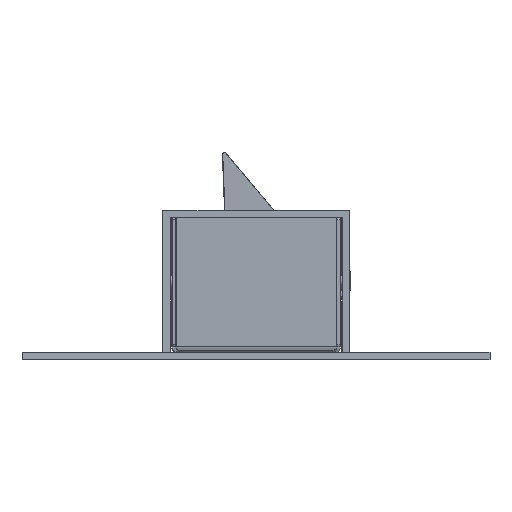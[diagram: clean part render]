
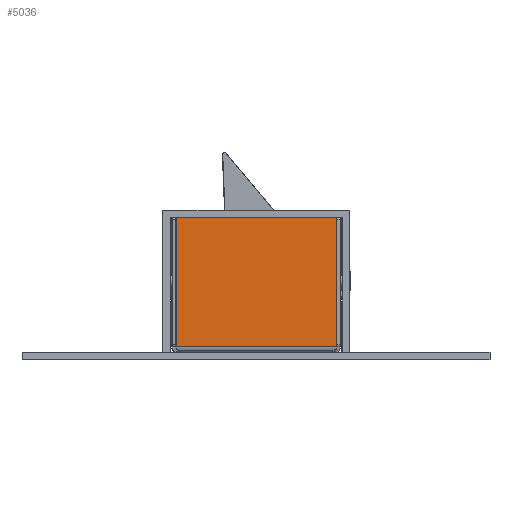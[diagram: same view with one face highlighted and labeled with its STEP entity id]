
A CAD part, left-side view. The second image highlights one B-rep face of the part: STEP entity #5036.
In plain terms, the highlighted planar face has unit normal (-1, 0, 0).
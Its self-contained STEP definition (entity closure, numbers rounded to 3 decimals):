
#263=LINE('',#7916,#696);
#267=LINE('',#7925,#700);
#268=LINE('',#7931,#701);
#269=LINE('',#7933,#702);
#696=VECTOR('',#6372,1000.);
#700=VECTOR('',#6378,1000.);
#701=VECTOR('',#6383,1000.);
#702=VECTOR('',#6384,1000.);
#1123=PLANE('',#5785);
#1305=ORIENTED_EDGE('',*,*,#2747,.F.);
#1306=ORIENTED_EDGE('',*,*,#2748,.T.);
#1307=ORIENTED_EDGE('',*,*,#2743,.F.);
#1308=ORIENTED_EDGE('',*,*,#2749,.T.);
#1309=ORIENTED_EDGE('',*,*,#2750,.T.);
#1310=ORIENTED_EDGE('',*,*,#2751,.T.);
#2743=EDGE_CURVE('',#3464,#3465,#263,.T.);
#2747=EDGE_CURVE('',#3468,#3469,#267,.T.);
#2748=EDGE_CURVE('',#3468,#3465,#3940,.T.);
#2749=EDGE_CURVE('',#3464,#3470,#3941,.T.);
#2750=EDGE_CURVE('',#3470,#3471,#268,.T.);
#2751=EDGE_CURVE('',#3471,#3469,#269,.T.);
#3464=VERTEX_POINT('',#7917);
#3465=VERTEX_POINT('',#7918);
#3468=VERTEX_POINT('',#7926);
#3469=VERTEX_POINT('',#7927);
#3470=VERTEX_POINT('',#7930);
#3471=VERTEX_POINT('',#7932);
#3940=CIRCLE('',#5786,0.5);
#3941=CIRCLE('',#5787,0.5);
#4151=EDGE_LOOP('',(#1305,#1306,#1307,#1308,#1309,#1310));
#4544=FACE_BOUND('',#4151,.T.);
#5036=ADVANCED_FACE('',(#4544),#1123,.F.);
#5785=AXIS2_PLACEMENT_3D('',#7924,#6376,#6377);
#5786=AXIS2_PLACEMENT_3D('',#7928,#6379,#6380);
#5787=AXIS2_PLACEMENT_3D('',#7929,#6381,#6382);
#6372=DIRECTION('',(0.,-1.,0.));
#6376=DIRECTION('',(1.,0.,0.));
#6377=DIRECTION('',(0.,1.,0.));
#6378=DIRECTION('',(0.,0.,-1.));
#6379=DIRECTION('',(-1.,0.,0.));
#6380=DIRECTION('',(0.,0.,-1.));
#6381=DIRECTION('',(-1.,0.,0.));
#6382=DIRECTION('',(0.,0.,-1.));
#6383=DIRECTION('',(0.,0.,-1.));
#6384=DIRECTION('',(0.,-1.,0.));
#7916=CARTESIAN_POINT('',(-15.,-22.5,36.5));
#7917=CARTESIAN_POINT('',(-15.,20.9,36.5));
#7918=CARTESIAN_POINT('',(-15.,-20.9,36.5));
#7924=CARTESIAN_POINT('',(-15.,-22.5,36.5));
#7925=CARTESIAN_POINT('',(-15.,-21.4,36.5));
#7926=CARTESIAN_POINT('',(-15.,-21.4,36.));
#7927=CARTESIAN_POINT('',(-15.,-21.4,2.));
#7928=CARTESIAN_POINT('',(-15.,-20.9,36.));
#7929=CARTESIAN_POINT('',(-15.,20.9,36.));
#7930=CARTESIAN_POINT('',(-15.,21.4,36.));
#7931=CARTESIAN_POINT('',(-15.,21.4,36.5));
#7932=CARTESIAN_POINT('',(-15.,21.4,2.));
#7933=CARTESIAN_POINT('',(-15.,-20.5,2.));
